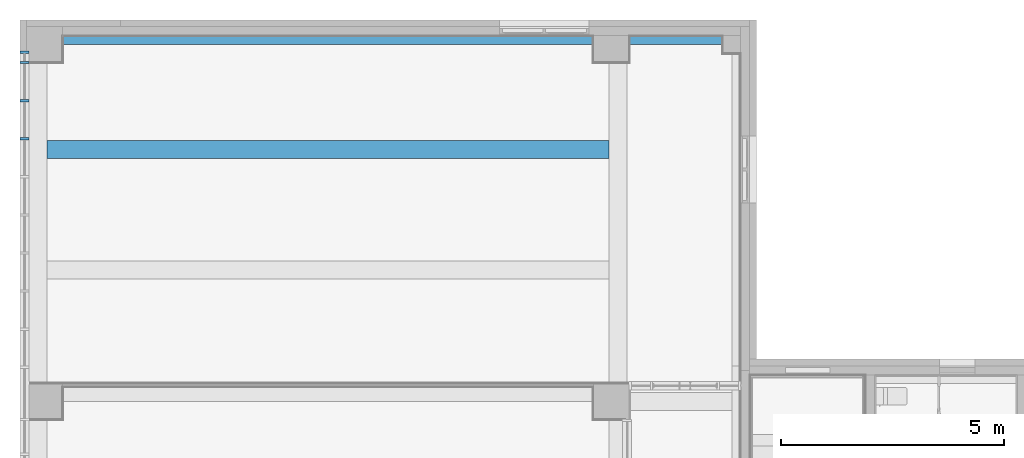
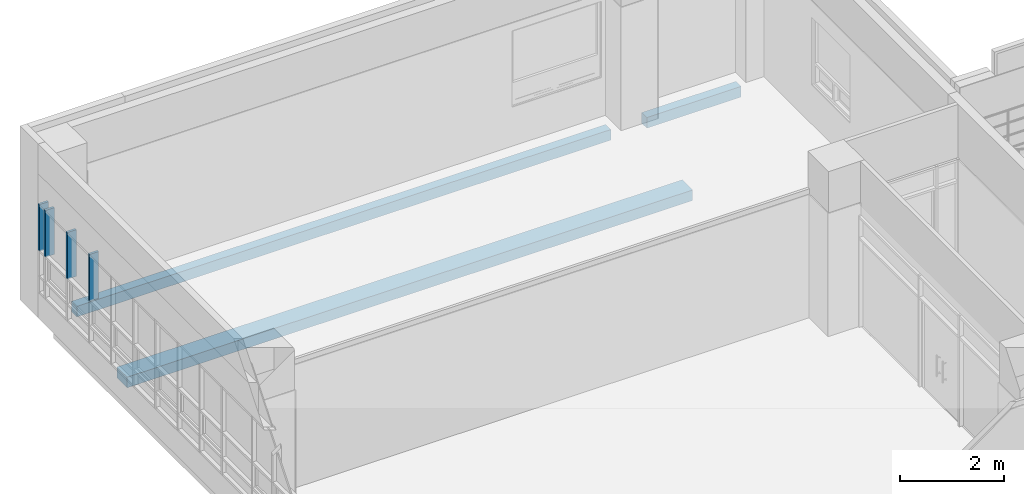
# One storey, part 9 of 81: 4 members, 3 beams, 1 element without a shape of its own.
"""IFC2X3 building model written with IfcOpenShell, lengths in millimetres."""

from ifc_helpers import new_model, entity, si_unit, converted_unit, derived_unit, direction, frame, frame_2d, origin, origin_2d_with_axis, place, context, subcontext, project, spatial, rectangle, extrude, source, transform, mapped, material, type_object, type_shapes, element, aggregate, save


model = new_model("IFC2X3")

# Units and contexts
model_context = context("Model", 3, precision=0.01, world=origin(), true_north=direction((6.123031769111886e-17, 1.0)))
body_context = subcontext(model_context, "Body", "Model", "MODEL_VIEW")
ifc_project = project(units=[si_unit("LENGTHUNIT", "METRE", prefix="MILLI"), si_unit("AREAUNIT", "SQUARE_METRE"), si_unit("VOLUMEUNIT", "CUBIC_METRE"), converted_unit("PLANEANGLEUNIT", "DEGREE", entity("IfcRatioMeasure", 0.017453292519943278), si_unit("PLANEANGLEUNIT", "RADIAN"), dimensions=[0, 0, 0, 0, 0, 0, 0]), si_unit("MASSUNIT", "GRAM", prefix="KILO"), derived_unit("MASSDENSITYUNIT", [(si_unit("MASSUNIT", "GRAM", prefix="KILO"), 1), (si_unit("LENGTHUNIT", "METRE"), -3)]), derived_unit("MOMENTOFINERTIAUNIT", [(si_unit("LENGTHUNIT", "METRE"), 4)]), si_unit("TIMEUNIT", "SECOND"), si_unit("FREQUENCYUNIT", "HERTZ"), si_unit("THERMODYNAMICTEMPERATUREUNIT", "DEGREE_CELSIUS"), derived_unit("THERMALTRANSMITTANCEUNIT", [(si_unit("MASSUNIT", "GRAM", prefix="KILO"), 1), (si_unit("THERMODYNAMICTEMPERATUREUNIT", "KELVIN"), -1), (si_unit("TIMEUNIT", "SECOND"), -3)]), derived_unit("VOLUMETRICFLOWRATEUNIT", [(si_unit("LENGTHUNIT", "METRE"), 3), (si_unit("TIMEUNIT", "SECOND"), -1)]), derived_unit("MASSFLOWRATEUNIT", [(si_unit("MASSUNIT", "GRAM", prefix="KILO"), 1), (si_unit("TIMEUNIT", "SECOND"), -1)]), derived_unit("ROTATIONALFREQUENCYUNIT", [(si_unit("TIMEUNIT", "SECOND"), -1)]), si_unit("ELECTRICCURRENTUNIT", "AMPERE"), si_unit("ELECTRICVOLTAGEUNIT", "VOLT"), si_unit("POWERUNIT", "WATT"), si_unit("FORCEUNIT", "NEWTON", prefix="KILO"), si_unit("ILLUMINANCEUNIT", "LUX"), si_unit("LUMINOUSFLUXUNIT", "LUMEN"), si_unit("LUMINOUSINTENSITYUNIT", "CANDELA"), derived_unit("USERDEFINED", [(si_unit("MASSUNIT", "GRAM", prefix="KILO"), -1), (si_unit("LENGTHUNIT", "METRE"), -2), (si_unit("TIMEUNIT", "SECOND"), 3), (si_unit("LUMINOUSFLUXUNIT", "LUMEN"), 1)]), derived_unit("SOUNDPOWERUNIT", [(si_unit("MASSUNIT", "GRAM", prefix="KILO"), 1), (si_unit("LENGTHUNIT", "METRE"), 2), (si_unit("TIMEUNIT", "SECOND"), -3)]), derived_unit("SOUNDPRESSUREUNIT", [(si_unit("MASSUNIT", "GRAM", prefix="KILO"), 1), (si_unit("LENGTHUNIT", "METRE"), -1), (si_unit("TIMEUNIT", "SECOND"), -2)]), derived_unit("LINEARVELOCITYUNIT", [(si_unit("LENGTHUNIT", "METRE"), 1), (si_unit("TIMEUNIT", "SECOND"), -1)]), si_unit("PRESSUREUNIT", "PASCAL"), derived_unit("USERDEFINED", [(si_unit("LENGTHUNIT", "METRE"), -2), (si_unit("MASSUNIT", "GRAM", prefix="KILO"), 1), (si_unit("TIMEUNIT", "SECOND"), -2)]), derived_unit("LINEARFORCEUNIT", [(si_unit("MASSUNIT", "GRAM", prefix="KILO"), 1), (si_unit("LENGTHUNIT", "METRE"), 1), (si_unit("TIMEUNIT", "SECOND"), -2), (si_unit("LENGTHUNIT", "METRE"), -1)]), derived_unit("PLANARFORCEUNIT", [(si_unit("MASSUNIT", "GRAM", prefix="KILO"), 1), (si_unit("LENGTHUNIT", "METRE"), 1), (si_unit("TIMEUNIT", "SECOND"), -2), (si_unit("LENGTHUNIT", "METRE"), -2)])], contexts=[model_context])

# Site, building, storey
site_placement = place(None, frame((-14167.972527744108, -657.2125860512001, 0.0)))
site = spatial("IfcSite", under=ifc_project, at=site_placement, Name="Default", CompositionType="ELEMENT")
building_placement = place(site_placement, origin())
building = spatial("IfcBuilding", under=site, at=building_placement, Name="Sample Building", CompositionType="ELEMENT")
storey_placement = place(building_placement, frame((0.0, 0.0, 13400.0)))
storey = spatial("IfcBuildingStorey", under=building, at=storey_placement, Name="지상 4층", CompositionType="ELEMENT", Elevation=13400.00000000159)

# Curtain wall, members
curtain_wall_type = type_object("IfcCurtainWallType", Name="커튼월:CW112-스테인리스 스틸 커튼월", PredefinedType="NOTDEFINED")
curtain_wall_placement = place(storey_placement, frame((0.0, 0.0, -13400.0)))
curtain_wall = element("IfcCurtainWall", 1, at=curtain_wall_placement, inside=storey, type_object=curtain_wall_type, Name="커튼월:CW112-스테인리스 스틸 커튼월", ObjectType="커튼월:CW112-스테인리스 스틸 커튼월")
ifc_material_1 = material(Name="<Unnamed>")
member_type_1 = type_object("IfcMemberType", Name="직사각형 멀리언:CW200-직사각형 멀리언 50x200mm", PredefinedType="MULLION", material=ifc_material_1)
shared_shape_1 = source(origin(), body_context, "Body", "SweptSolid", [
    extrude(rectangle(XDim=200.0, YDim=50.0, at=origin_2d_with_axis()), frame((-25.0, 0.0, -1100.0), z_axis=(0.0, 0.0, 1.0), x_axis=(0.0, -1.0, 0.0)), (0.0, 0.0, 1.0), 1100.0000000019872),
])
type_shapes(member_type_1, [shared_shape_1])
member_1_placement = place(curtain_wall_placement, frame((14018.570555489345, 35207.21229514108, 16100.0), z_axis=(0.0, 0.0, 1.0), x_axis=(0.0, 1.0, 0.0)))
member_1 = element("IfcMember", 2, at=member_1_placement, type_object=member_type_1, material=ifc_material_1, Name="직사각형 멀리언:CW200-직사각형 멀리언 50x200mm", ObjectType="직사각형 멀리언:CW200-직사각형 멀리언 50x200mm", context=body_context, shape_type="MappedRepresentation", body=[
    mapped(shared_shape_1, transform((0.0, 0.0, 0.0), scale=1.0)),
])
member_type_2 = type_object("IfcMemberType", Name="직사각형 멀리언:CW200-직사각형 멀리언 50x200mm", PredefinedType="MULLION", material=ifc_material_1)
shared_shape_2 = source(origin(), body_context, "Body", "SweptSolid", [
    extrude(rectangle(XDim=200.0, YDim=50.0, at=origin_2d_with_axis()), frame((0.0, 0.0, -1100.0), z_axis=(0.0, 0.0, 1.0), x_axis=(0.0, -1.0, 0.0)), (0.0, 0.0, 1.0), 1100.0000000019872),
])
type_shapes(member_type_2, [shared_shape_2])
member_2_placement = place(curtain_wall_placement, frame((14018.570555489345, 34953.81770709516, 15000.0), z_axis=(0.0, 0.0, -1.0), x_axis=(0.0, -1.0, 0.0)))
member_2 = element("IfcMember", 3, at=member_2_placement, type_object=member_type_2, material=ifc_material_1, Name="직사각형 멀리언:CW200-직사각형 멀리언 50x200mm", ObjectType="직사각형 멀리언:CW200-직사각형 멀리언 50x200mm", context=body_context, shape_type="MappedRepresentation", body=[
    mapped(shared_shape_2, transform((0.0, 0.0, 0.0), scale=1.0)),
])
member_3_placement = place(curtain_wall_placement, frame((14018.570555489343, 34100.31770709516, 15000.0), z_axis=(0.0, 0.0, -1.0), x_axis=(0.0, -1.0, 0.0)))
member_3 = element("IfcMember", 4, at=member_3_placement, type_object=member_type_2, material=ifc_material_1, Name="직사각형 멀리언:CW200-직사각형 멀리언 50x200mm", ObjectType="직사각형 멀리언:CW200-직사각형 멀리언 50x200mm", context=body_context, shape_type="MappedRepresentation", body=[
    mapped(shared_shape_2, transform((0.0, 0.0, 0.0), scale=1.0)),
])
member_4_placement = place(curtain_wall_placement, frame((14018.570555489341, 33246.81770709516, 15000.0), z_axis=(0.0, 0.0, -1.0), x_axis=(0.0, -1.0, 0.0)))
member_4 = element("IfcMember", 5, at=member_4_placement, type_object=member_type_2, material=ifc_material_1, Name="직사각형 멀리언:CW200-직사각형 멀리언 50x200mm", ObjectType="직사각형 멀리언:CW200-직사각형 멀리언 50x200mm", context=body_context, shape_type="MappedRepresentation", body=[
    mapped(shared_shape_2, transform((0.0, 0.0, 0.0), scale=1.0)),
])
aggregate(curtain_wall, [member_1, member_2, member_3, member_4])

# Beams
ifc_material_2 = material(Name="KBIMS-콘크리트")
beam_type_1 = type_object("IfcBeamType", Name="BM111-철근콘크리트구조 보:BM110-철근 콘크리트구조 보_400 x 400_2-10G7", PredefinedType="NOTDEFINED")
beam_1_placement = place(storey_placement, frame((14867.981136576, 35557.21260419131, 0.0)))
element("IfcBeam", 6, at=beam_1_placement, inside=storey, type_object=beam_type_1, material=ifc_material_2, Name="BM111-철근콘크리트구조 보:BM110-철근 콘크리트구조 보_400 x 400_2-10G7", ObjectType="BM111-철근콘크리트구조 보:BM110-철근 콘크리트구조 보_400 x 400_2-10G7", context=body_context, shape_type="SweptSolid", body=[
    extrude(rectangle(XDim=250.00000000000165, YDim=199.99969094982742, at=frame_2d((-1.0871303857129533e-12, 4.334310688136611e-12), x_axis=(1.0, 0.0))), frame((0.0, -100.00015452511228, -275.0), z_axis=(1.0, 0.0, 0.0), x_axis=(0.0, 0.0, -1.0)), (0.0, 0.0, 1.0), 11899.974005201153),
])
beam_type_2 = type_object("IfcBeamType", Name="BM111-철근콘크리트구조 보:BM110-철근 콘크리트구조 보_400 x 400_2-10G8", PredefinedType="NOTDEFINED")
beam_2_placement = place(storey_placement, frame((29667.93775580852, 35557.21260419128, 0.0), z_axis=(0.0, 0.0, 1.0), x_axis=(-1.0, 0.0, 0.0)))
element("IfcBeam", 7, at=beam_2_placement, inside=storey, type_object=beam_type_2, material=ifc_material_2, Name="BM111-철근콘크리트구조 보:BM110-철근 콘크리트구조 보_400 x 400_2-10G8", ObjectType="BM111-철근콘크리트구조 보:BM110-철근 콘크리트구조 보_400 x 400_2-10G8", context=body_context, shape_type="SweptSolid", body=[
    extrude(rectangle(XDim=250.00000000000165, YDim=199.99969094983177, at=frame_2d((-1.0871303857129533e-12, 4.32720526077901e-12), x_axis=(1.0, 0.0))), frame((0.0, 100.00015452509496, -275.0), z_axis=(1.0, 0.0, 0.0), x_axis=(0.0, 0.0, -1.0)), (0.0, 0.0, 1.0), 2099.9826140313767),
])
beam_type_3 = type_object("IfcBeamType", Name="BM111-철근콘크리트구조 보:BM110-철근 콘크리트구조 보_400 x 400_2-10B3", PredefinedType="NOTDEFINED")
beam_3_placement = place(storey_placement, frame((14317.955221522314, 33007.21247892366, 0.0)))
element("IfcBeam", 8, at=beam_3_placement, inside=storey, type_object=beam_type_3, material=ifc_material_2, Name="BM111-철근콘크리트구조 보:BM110-철근 콘크리트구조 보_400 x 400_2-10B3", ObjectType="BM111-철근콘크리트구조 보:BM110-철근 콘크리트구조 보_400 x 400_2-10B3", context=body_context, shape_type="SweptSolid", body=[
    extrude(rectangle(XDim=250.00000000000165, YDim=400.0000000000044, at=frame_2d((-1.0800249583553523e-12, 0.0), x_axis=(1.0, 0.0))), frame((200.0, 0.0, -275.0), z_axis=(1.0, 0.0, 0.0), x_axis=(0.0, 0.0, -1.0)), (0.0, 0.0, 1.0), 12600.10657854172),
])

save(model, "model.ifc")
